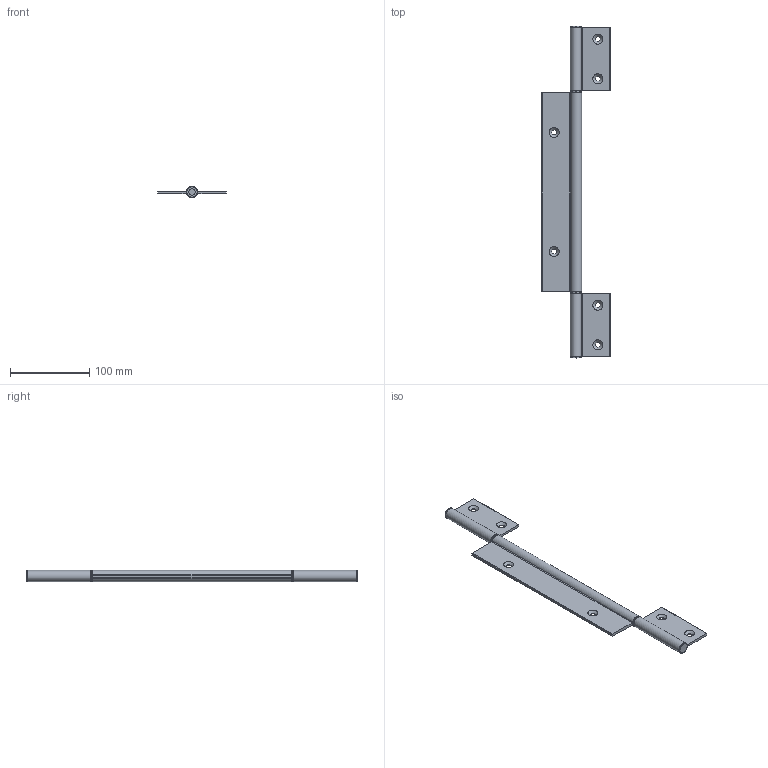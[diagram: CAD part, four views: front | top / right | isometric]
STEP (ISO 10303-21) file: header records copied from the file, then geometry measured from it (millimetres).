
FILE_DESCRIPTION( ( 'STEP AP203' ), '1' );
FILE_NAME( 'C:/Temp/Ganter_Step_05_03_2020/data/3_3/gn2295/Hinge GN 2295-86-415-I-C-EL.stp', '2020-03-12T12:08:01', ( 'License CC BY-ND 4.0' ), ( 'CADENAS' ), ' ', 'PARTsolutions', ' ' );
FILE_SCHEMA( ( 'CONFIG_CONTROL_DESIGN' ) );
Length unit declared in the file: millimetre
Products named in the file (4): Hinge GN 2295-86-415-I-C-EL; _Hinge GN 2295-86-415-I-C-EL-1; _Hinge GN 2295-86-415-I-C-EL-2; _Hinge GN 2295-86-415-I-C-EL-3
Assembly tree (3 placements, depth 2):
  Hinge GN 2295-86-415-I-C-EL
    _Hinge GN 2295-86-415-I-C-EL-1
    _Hinge GN 2295-86-415-I-C-EL-2
    _Hinge GN 2295-86-415-I-C-EL-3
Bounding box: 86 x 418 x 13.97 mm (x, y, z)
Volume: 114557.8 mm3; surface area: 58068.8 mm2
Topology: 3 solids, 3 shells, 87 faces, 224 edges, 147 vertices
Faces by surface type: plane 46, cylinder 33, cone 6, torus 2
Full cylindrical faces by diameter (mm): 6 x2, 6.6 x6, 8 x4, 13.9 x6
Entity records: 2662 total; most frequent: DIRECTION 477, CARTESIAN_POINT 422, ORIENTED_EDGE 382, AXIS2_PLACEMENT_3D 195, EDGE_CURVE 191, VERTEX_POINT 140, EDGE_LOOP 133, FACE_OUTER_BOUND 107
